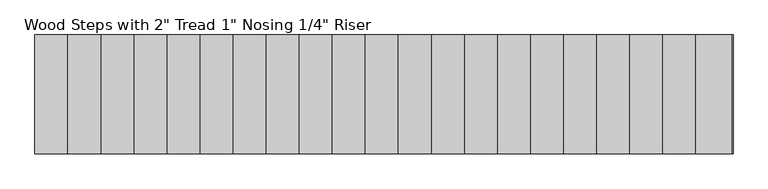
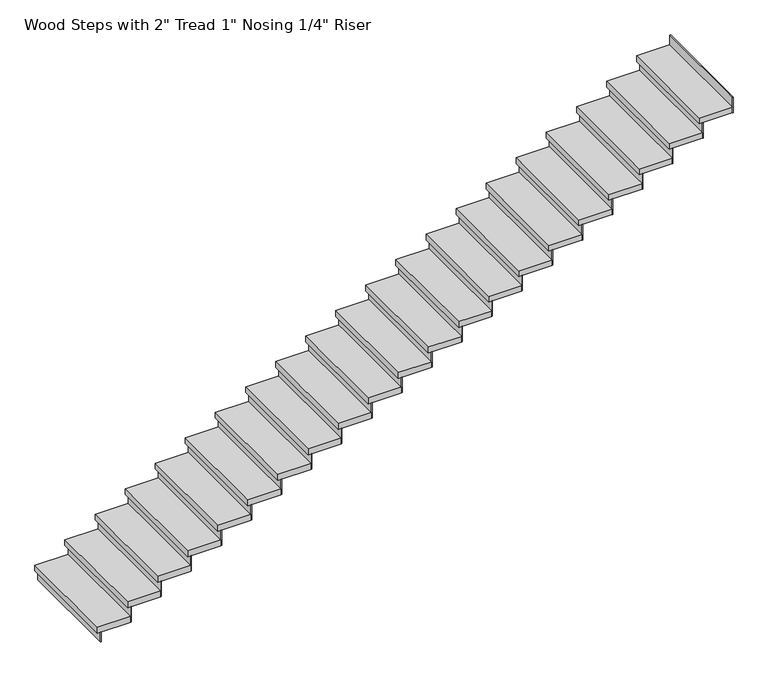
"""IFC4 building model written with IfcOpenShell, lengths in millimetres: stair flight geometry."""

from ifc_helpers import new_model, si_unit, frame, origin, origin_with_axes, place, context, project, spatial, polyline, outline, extrude, source, transform, mapped, element, save


def stair_flight_5a4c5ca5(model_context):
    return source(origin(), model_context, "Body", "SweptSolid", [
        extrude(outline(polyline([(12341.8381748, 31644.2177722), (12335.4881748, 31644.2177722), (12335.4881748, 32558.6177722), (12341.8381748, 32558.6177722), (12341.8381748, 31644.2177722)])), origin_with_axes(), (0.0, 0.0, 1.0), 87.7454545),
        extrude(outline(polyline([(12589.4881748, 32558.6177722), (12589.4881748, 31644.2177722), (12310.0881748, 31644.2177722), (12310.0881748, 32558.6177722), (12589.4881748, 32558.6177722)])), frame((0.0, 0.0, 87.7454545), z_axis=(0.0, 0.0, 1.0), x_axis=(1.0, 0.0, 0.0)), (0.0, 0.0, 1.0), 50.8),
        extrude(outline(polyline([(12595.8381748, 31644.2177722), (12589.4881748, 31644.2177722), (12589.4881748, 32558.6177722), (12595.8381748, 32558.6177722), (12595.8381748, 31644.2177722)])), frame((0.0, 0.0, 87.7454545), z_axis=(0.0, 0.0, 1.0), x_axis=(1.0, 0.0, 0.0)), (0.0, 0.0, 1.0), 138.5454545),
        extrude(outline(polyline([(12843.4881748, 32558.6177722), (12843.4881748, 31644.2177722), (12564.0881748, 31644.2177722), (12564.0881748, 32558.6177722), (12843.4881748, 32558.6177722)])), frame((0.0, 0.0, 226.2909091), z_axis=(0.0, 0.0, 1.0), x_axis=(1.0, 0.0, 0.0)), (0.0, 0.0, 1.0), 50.8),
        extrude(outline(polyline([(12849.8381748, 31644.2177722), (12843.4881748, 31644.2177722), (12843.4881748, 32558.6177722), (12849.8381748, 32558.6177722), (12849.8381748, 31644.2177722)])), frame((0.0, 0.0, 226.2909091), z_axis=(0.0, 0.0, 1.0), x_axis=(1.0, 0.0, 0.0)), (0.0, 0.0, 1.0), 138.5454545),
        extrude(outline(polyline([(13097.4881748, 32558.6177722), (13097.4881748, 31644.2177722), (12818.0881748, 31644.2177722), (12818.0881748, 32558.6177722), (13097.4881748, 32558.6177722)])), frame((0.0, 0.0, 364.8363636), z_axis=(0.0, 0.0, 1.0), x_axis=(1.0, 0.0, 0.0)), (0.0, 0.0, 1.0), 50.8),
        extrude(outline(polyline([(13103.8381748, 31644.2177722), (13097.4881748, 31644.2177722), (13097.4881748, 32558.6177722), (13103.8381748, 32558.6177722), (13103.8381748, 31644.2177722)])), frame((0.0, 0.0, 364.8363636), z_axis=(0.0, 0.0, 1.0), x_axis=(1.0, 0.0, 0.0)), (0.0, 0.0, 1.0), 138.5454545),
        extrude(outline(polyline([(13351.4881748, 32558.6177722), (13351.4881748, 31644.2177722), (13072.0881748, 31644.2177722), (13072.0881748, 32558.6177722), (13351.4881748, 32558.6177722)])), frame((0.0, 0.0, 503.3818182), z_axis=(0.0, 0.0, 1.0), x_axis=(1.0, 0.0, 0.0)), (0.0, 0.0, 1.0), 50.8),
        extrude(outline(polyline([(13357.8381748, 31644.2177722), (13351.4881748, 31644.2177722), (13351.4881748, 32558.6177722), (13357.8381748, 32558.6177722), (13357.8381748, 31644.2177722)])), frame((0.0, 0.0, 503.3818182), z_axis=(0.0, 0.0, 1.0), x_axis=(1.0, 0.0, 0.0)), (0.0, 0.0, 1.0), 138.5454545),
        extrude(outline(polyline([(13605.4881748, 32558.6177722), (13605.4881748, 31644.2177722), (13326.0881748, 31644.2177722), (13326.0881748, 32558.6177722), (13605.4881748, 32558.6177722)])), frame((0.0, 0.0, 641.9272727), z_axis=(0.0, 0.0, 1.0), x_axis=(1.0, 0.0, 0.0)), (0.0, 0.0, 1.0), 50.8),
        extrude(outline(polyline([(13611.8381748, 31644.2177722), (13605.4881748, 31644.2177722), (13605.4881748, 32558.6177722), (13611.8381748, 32558.6177722), (13611.8381748, 31644.2177722)])), frame((0.0, 0.0, 641.9272727), z_axis=(0.0, 0.0, 1.0), x_axis=(1.0, 0.0, 0.0)), (0.0, 0.0, 1.0), 138.5454545),
        extrude(outline(polyline([(13859.4881748, 32558.6177722), (13859.4881748, 31644.2177722), (13580.0881748, 31644.2177722), (13580.0881748, 32558.6177722), (13859.4881748, 32558.6177722)])), frame((0.0, 0.0, 780.4727273), z_axis=(0.0, 0.0, 1.0), x_axis=(1.0, 0.0, 0.0)), (0.0, 0.0, 1.0), 50.8),
        extrude(outline(polyline([(13865.8381748, 31644.2177722), (13859.4881748, 31644.2177722), (13859.4881748, 32558.6177722), (13865.8381748, 32558.6177722), (13865.8381748, 31644.2177722)])), frame((0.0, 0.0, 780.4727273), z_axis=(0.0, 0.0, 1.0), x_axis=(1.0, 0.0, 0.0)), (0.0, 0.0, 1.0), 138.5454545),
        extrude(outline(polyline([(14113.4881748, 32558.6177722), (14113.4881748, 31644.2177722), (13834.0881748, 31644.2177722), (13834.0881748, 32558.6177722), (14113.4881748, 32558.6177722)])), frame((0.0, 0.0, 919.0181818), z_axis=(0.0, 0.0, 1.0), x_axis=(1.0, 0.0, 0.0)), (0.0, 0.0, 1.0), 50.8),
        extrude(outline(polyline([(14119.8381748, 31644.2177722), (14113.4881748, 31644.2177722), (14113.4881748, 32558.6177722), (14119.8381748, 32558.6177722), (14119.8381748, 31644.2177722)])), frame((0.0, 0.0, 919.0181818), z_axis=(0.0, 0.0, 1.0), x_axis=(1.0, 0.0, 0.0)), (0.0, 0.0, 1.0), 138.5454545),
        extrude(outline(polyline([(14367.4881748, 32558.6177722), (14367.4881748, 31644.2177722), (14088.0881748, 31644.2177722), (14088.0881748, 32558.6177722), (14367.4881748, 32558.6177722)])), frame((0.0, 0.0, 1057.5636364), z_axis=(0.0, 0.0, 1.0), x_axis=(1.0, 0.0, 0.0)), (0.0, 0.0, 1.0), 50.8),
        extrude(outline(polyline([(14373.8381748, 31644.2177722), (14367.4881748, 31644.2177722), (14367.4881748, 32558.6177722), (14373.8381748, 32558.6177722), (14373.8381748, 31644.2177722)])), frame((0.0, 0.0, 1057.5636364), z_axis=(0.0, 0.0, 1.0), x_axis=(1.0, 0.0, 0.0)), (0.0, 0.0, 1.0), 138.5454545),
        extrude(outline(polyline([(14621.4881748, 32558.6177722), (14621.4881748, 31644.2177722), (14342.0881748, 31644.2177722), (14342.0881748, 32558.6177722), (14621.4881748, 32558.6177722)])), frame((0.0, 0.0, 1196.1090909), z_axis=(0.0, 0.0, 1.0), x_axis=(1.0, 0.0, 0.0)), (0.0, 0.0, 1.0), 50.8),
        extrude(outline(polyline([(14627.8381748, 31644.2177722), (14621.4881748, 31644.2177722), (14621.4881748, 32558.6177722), (14627.8381748, 32558.6177722), (14627.8381748, 31644.2177722)])), frame((0.0, 0.0, 1196.1090909), z_axis=(0.0, 0.0, 1.0), x_axis=(1.0, 0.0, 0.0)), (0.0, 0.0, 1.0), 138.5454545),
        extrude(outline(polyline([(14875.4881748, 32558.6177722), (14875.4881748, 31644.2177722), (14596.0881748, 31644.2177722), (14596.0881748, 32558.6177722), (14875.4881748, 32558.6177722)])), frame((0.0, 0.0, 1334.6545455), z_axis=(0.0, 0.0, 1.0), x_axis=(1.0, 0.0, 0.0)), (0.0, 0.0, 1.0), 50.8),
        extrude(outline(polyline([(14881.8381748, 31644.2177722), (14875.4881748, 31644.2177722), (14875.4881748, 32558.6177722), (14881.8381748, 32558.6177722), (14881.8381748, 31644.2177722)])), frame((0.0, 0.0, 1334.6545455), z_axis=(0.0, 0.0, 1.0), x_axis=(1.0, 0.0, 0.0)), (0.0, 0.0, 1.0), 138.5454545),
        extrude(outline(polyline([(15129.4881748, 32558.6177722), (15129.4881748, 31644.2177722), (14850.0881748, 31644.2177722), (14850.0881748, 32558.6177722), (15129.4881748, 32558.6177722)])), frame((0.0, 0.0, 1473.2), z_axis=(0.0, 0.0, 1.0), x_axis=(1.0, 0.0, 0.0)), (0.0, 0.0, 1.0), 50.8),
        extrude(outline(polyline([(15135.8381748, 31644.2177722), (15129.4881748, 31644.2177722), (15129.4881748, 32558.6177722), (15135.8381748, 32558.6177722), (15135.8381748, 31644.2177722)])), frame((0.0, 0.0, 1473.2), z_axis=(0.0, 0.0, 1.0), x_axis=(1.0, 0.0, 0.0)), (0.0, 0.0, 1.0), 138.5454545),
        extrude(outline(polyline([(15383.4881748, 32558.6177722), (15383.4881748, 31644.2177722), (15104.0881748, 31644.2177722), (15104.0881748, 32558.6177722), (15383.4881748, 32558.6177722)])), frame((0.0, 0.0, 1611.7454545), z_axis=(0.0, 0.0, 1.0), x_axis=(1.0, 0.0, 0.0)), (0.0, 0.0, 1.0), 50.8),
        extrude(outline(polyline([(15389.8381748, 31644.2177722), (15383.4881748, 31644.2177722), (15383.4881748, 32558.6177722), (15389.8381748, 32558.6177722), (15389.8381748, 31644.2177722)])), frame((0.0, 0.0, 1611.7454545), z_axis=(0.0, 0.0, 1.0), x_axis=(1.0, 0.0, 0.0)), (0.0, 0.0, 1.0), 138.5454545),
        extrude(outline(polyline([(15637.4881748, 32558.6177722), (15637.4881748, 31644.2177722), (15358.0881748, 31644.2177722), (15358.0881748, 32558.6177722), (15637.4881748, 32558.6177722)])), frame((0.0, 0.0, 1750.2909091), z_axis=(0.0, 0.0, 1.0), x_axis=(1.0, 0.0, 0.0)), (0.0, 0.0, 1.0), 50.8),
        extrude(outline(polyline([(15643.8381748, 31644.2177722), (15637.4881748, 31644.2177722), (15637.4881748, 32558.6177722), (15643.8381748, 32558.6177722), (15643.8381748, 31644.2177722)])), frame((0.0, 0.0, 1750.2909091), z_axis=(0.0, 0.0, 1.0), x_axis=(1.0, 0.0, 0.0)), (0.0, 0.0, 1.0), 138.5454545),
        extrude(outline(polyline([(15891.4881748, 32558.6177722), (15891.4881748, 31644.2177722), (15612.0881748, 31644.2177722), (15612.0881748, 32558.6177722), (15891.4881748, 32558.6177722)])), frame((0.0, 0.0, 1888.8363636), z_axis=(0.0, 0.0, 1.0), x_axis=(1.0, 0.0, 0.0)), (0.0, 0.0, 1.0), 50.8),
        extrude(outline(polyline([(15897.8381748, 31644.2177722), (15891.4881748, 31644.2177722), (15891.4881748, 32558.6177722), (15897.8381748, 32558.6177722), (15897.8381748, 31644.2177722)])), frame((0.0, 0.0, 1888.8363636), z_axis=(0.0, 0.0, 1.0), x_axis=(1.0, 0.0, 0.0)), (0.0, 0.0, 1.0), 138.5454545),
        extrude(outline(polyline([(16145.4881748, 32558.6177722), (16145.4881748, 31644.2177722), (15866.0881748, 31644.2177722), (15866.0881748, 32558.6177722), (16145.4881748, 32558.6177722)])), frame((0.0, 0.0, 2027.3818182), z_axis=(0.0, 0.0, 1.0), x_axis=(1.0, 0.0, 0.0)), (0.0, 0.0, 1.0), 50.8),
        extrude(outline(polyline([(16151.8381748, 31644.2177722), (16145.4881748, 31644.2177722), (16145.4881748, 32558.6177722), (16151.8381748, 32558.6177722), (16151.8381748, 31644.2177722)])), frame((0.0, 0.0, 2027.3818182), z_axis=(0.0, 0.0, 1.0), x_axis=(1.0, 0.0, 0.0)), (0.0, 0.0, 1.0), 138.5454545),
        extrude(outline(polyline([(16399.4881748, 32558.6177722), (16399.4881748, 31644.2177722), (16120.0881748, 31644.2177722), (16120.0881748, 32558.6177722), (16399.4881748, 32558.6177722)])), frame((0.0, 0.0, 2165.9272727), z_axis=(0.0, 0.0, 1.0), x_axis=(1.0, 0.0, 0.0)), (0.0, 0.0, 1.0), 50.8),
        extrude(outline(polyline([(16405.8381748, 31644.2177722), (16399.4881748, 31644.2177722), (16399.4881748, 32558.6177722), (16405.8381748, 32558.6177722), (16405.8381748, 31644.2177722)])), frame((0.0, 0.0, 2165.9272727), z_axis=(0.0, 0.0, 1.0), x_axis=(1.0, 0.0, 0.0)), (0.0, 0.0, 1.0), 138.5454545),
        extrude(outline(polyline([(16653.4881748, 32558.6177722), (16653.4881748, 31644.2177722), (16374.0881748, 31644.2177722), (16374.0881748, 32558.6177722), (16653.4881748, 32558.6177722)])), frame((0.0, 0.0, 2304.4727273), z_axis=(0.0, 0.0, 1.0), x_axis=(1.0, 0.0, 0.0)), (0.0, 0.0, 1.0), 50.8),
        extrude(outline(polyline([(16659.8381748, 31644.2177722), (16653.4881748, 31644.2177722), (16653.4881748, 32558.6177722), (16659.8381748, 32558.6177722), (16659.8381748, 31644.2177722)])), frame((0.0, 0.0, 2304.4727273), z_axis=(0.0, 0.0, 1.0), x_axis=(1.0, 0.0, 0.0)), (0.0, 0.0, 1.0), 138.5454545),
        extrude(outline(polyline([(16907.4881748, 32558.6177722), (16907.4881748, 31644.2177722), (16628.0881748, 31644.2177722), (16628.0881748, 32558.6177722), (16907.4881748, 32558.6177722)])), frame((0.0, 0.0, 2443.0181818), z_axis=(0.0, 0.0, 1.0), x_axis=(1.0, 0.0, 0.0)), (0.0, 0.0, 1.0), 50.8),
        extrude(outline(polyline([(16913.8381748, 31644.2177722), (16907.4881748, 31644.2177722), (16907.4881748, 32558.6177722), (16913.8381748, 32558.6177722), (16913.8381748, 31644.2177722)])), frame((0.0, 0.0, 2443.0181818), z_axis=(0.0, 0.0, 1.0), x_axis=(1.0, 0.0, 0.0)), (0.0, 0.0, 1.0), 138.5454545),
        extrude(outline(polyline([(17161.4881748, 32558.6177722), (17161.4881748, 31644.2177722), (16882.0881748, 31644.2177722), (16882.0881748, 32558.6177722), (17161.4881748, 32558.6177722)])), frame((0.0, 0.0, 2581.5636364), z_axis=(0.0, 0.0, 1.0), x_axis=(1.0, 0.0, 0.0)), (0.0, 0.0, 1.0), 50.8),
        extrude(outline(polyline([(17167.8381748, 31644.2177722), (17161.4881748, 31644.2177722), (17161.4881748, 32558.6177722), (17167.8381748, 32558.6177722), (17167.8381748, 31644.2177722)])), frame((0.0, 0.0, 2581.5636364), z_axis=(0.0, 0.0, 1.0), x_axis=(1.0, 0.0, 0.0)), (0.0, 0.0, 1.0), 138.5454545),
        extrude(outline(polyline([(17415.4881748, 32558.6177722), (17415.4881748, 31644.2177722), (17136.0881748, 31644.2177722), (17136.0881748, 32558.6177722), (17415.4881748, 32558.6177722)])), frame((0.0, 0.0, 2720.1090909), z_axis=(0.0, 0.0, 1.0), x_axis=(1.0, 0.0, 0.0)), (0.0, 0.0, 1.0), 50.8),
        extrude(outline(polyline([(17421.8381748, 31644.2177722), (17415.4881748, 31644.2177722), (17415.4881748, 32558.6177722), (17421.8381748, 32558.6177722), (17421.8381748, 31644.2177722)])), frame((0.0, 0.0, 2720.1090909), z_axis=(0.0, 0.0, 1.0), x_axis=(1.0, 0.0, 0.0)), (0.0, 0.0, 1.0), 138.5454545),
        extrude(outline(polyline([(17675.8381748, 31644.2177722), (17669.4881748, 31644.2177722), (17669.4881748, 32558.6177722), (17675.8381748, 32558.6177722), (17675.8381748, 31644.2177722)])), frame((0.0, 0.0, 2858.6545455), z_axis=(0.0, 0.0, 1.0), x_axis=(1.0, 0.0, 0.0)), (0.0, 0.0, 1.0), 138.5454545),
        extrude(outline(polyline([(17669.4881748, 32558.6177722), (17669.4881748, 31644.2177722), (17390.0881748, 31644.2177722), (17390.0881748, 32558.6177722), (17669.4881748, 32558.6177722)])), frame((0.0, 0.0, 2858.6545455), z_axis=(0.0, 0.0, 1.0), x_axis=(1.0, 0.0, 0.0)), (0.0, 0.0, 1.0), 50.8),
    ])


if __name__ == "__main__":
    model = new_model("IFC4")
    model_context = context("Model", 3, world=origin())
    ifc_project = project(units=[si_unit("LENGTHUNIT", "METRE", prefix="MILLI")], contexts=[model_context])
    site = spatial("IfcSite", under=ifc_project)
    building = spatial("IfcBuilding", under=site)
    placement = place(None, origin())
    stair_flight_shape = stair_flight_5a4c5ca5(model_context)
    element("IfcStairFlight", 1, ObjectType="Wood Steps with 2\" Tread 1\" Nosing 1/4\" Riser", at=placement, inside=building, context=model_context, shape_type="MappedRepresentation", body=[
        mapped(stair_flight_shape, transform((0.0, 0.0, 0.0), x_axis=(1.0, 0.0, 0.0), y_axis=(0.0, 1.0, 0.0), z_axis=(0.0, 0.0, 1.0))),
    ])
    save(model, "model.ifc")
